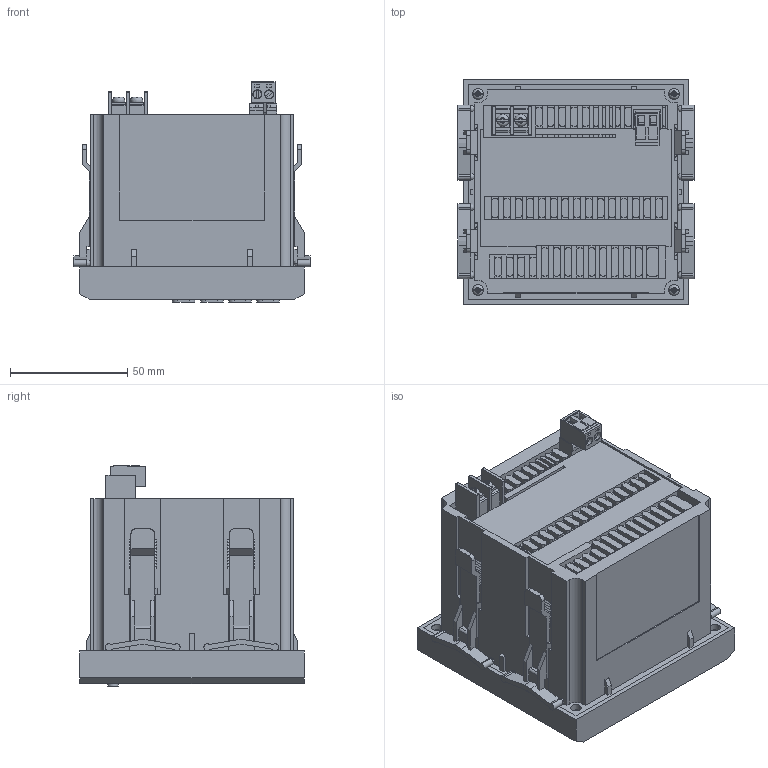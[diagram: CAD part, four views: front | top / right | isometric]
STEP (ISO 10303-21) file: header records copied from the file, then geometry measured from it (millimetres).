
FILE_DESCRIPTION (( 'STEP AP203' ), '1' );
FILE_NAME ('VMD-991 ASTER.STEP', '2019-12-02T21:31:04', ( '' ), ( '' ), 'SwSTEP 2.0', 'SolidWorks 2017', '' );
FILE_SCHEMA (( 'CONFIG_CONTROL_DESIGN' ));
Products named in the file (1): VMD-991 ASTER
Bounding box: 100.8 x 96 x 94 mm (x, y, z)
Volume: 535663.7 mm3; surface area: 82355.7 mm2
Topology: 1 solids, 9 shells, 1698 faces, 4983 edges, 3252 vertices
Faces by surface type: plane 1274, cylinder 324, bspline 76, torus 20, cone 4
Entity records: 62739 total; most frequent: CARTESIAN_POINT 18795, ORIENTED_EDGE 9926, DIRECTION 7894, EDGE_CURVE 4963, LINE 3728, VECTOR 3728, VERTEX_POINT 3252, AXIS2_PLACEMENT_3D 2083
